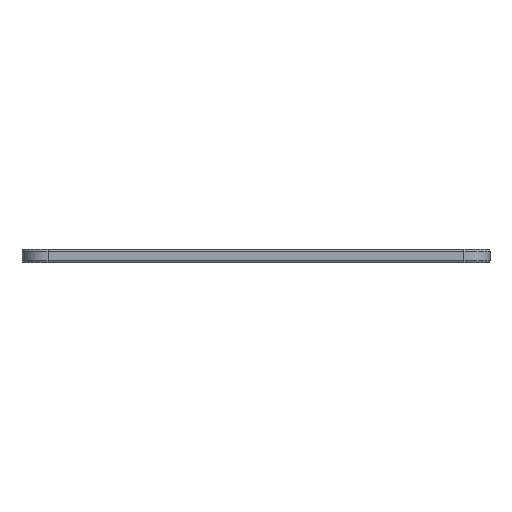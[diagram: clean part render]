
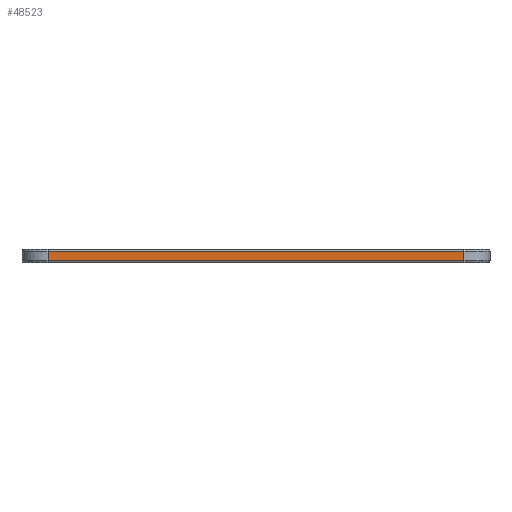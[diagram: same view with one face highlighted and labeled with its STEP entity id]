
A CAD part, front view. The second image highlights one B-rep face of the part: STEP entity #48523.
In plain terms, the highlighted planar face has unit normal (0, -1, 0).
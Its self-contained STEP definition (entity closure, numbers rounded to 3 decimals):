
#1090 = VERTEX_POINT ( 'NONE', #38330 ) ;
#4782 = CARTESIAN_POINT ( 'NONE',  ( -23.99, -42.8, 0.55 ) ) ;
#4953 = ORIENTED_EDGE ( 'NONE', *, *, #39635, .T. ) ;
#5704 = VERTEX_POINT ( 'NONE', #8839 ) ;
#6017 = ORIENTED_EDGE ( 'NONE', *, *, #35766, .T. ) ;
#6618 = VECTOR ( 'NONE', #30327, 1000. ) ;
#6809 = DIRECTION ( 'NONE',  ( 0., 0., -1. ) ) ;
#7109 = CARTESIAN_POINT ( 'NONE',  ( 23.99, -42.8, 0.75 ) ) ;
#7135 = CARTESIAN_POINT ( 'NONE',  ( -23.99, -42.8, 0.75 ) ) ;
#8451 = EDGE_CURVE ( 'NONE', #33631, #5704, #20786, .T. ) ;
#8839 = CARTESIAN_POINT ( 'NONE',  ( -23.99, -42.8, -0.55 ) ) ;
#10228 = LINE ( 'NONE', #49596, #48304 ) ;
#10429 = CARTESIAN_POINT ( 'NONE',  ( 23.99, -42.8, -0.55 ) ) ;
#15319 = VERTEX_POINT ( 'NONE', #10429 ) ;
#16925 = LINE ( 'NONE', #7109, #6618 ) ;
#17462 = EDGE_CURVE ( 'NONE', #5704, #15319, #10228, .T. ) ;
#17876 = CARTESIAN_POINT ( 'NONE',  ( -23.99, -42.8, 0.55 ) ) ;
#20262 = VECTOR ( 'NONE', #33242, 1000. ) ;
#20786 = LINE ( 'NONE', #7135, #43127 ) ;
#23269 = LINE ( 'NONE', #17876, #20262 ) ;
#30327 = DIRECTION ( 'NONE',  ( 0., 0., 1. ) ) ;
#30451 = PLANE ( 'NONE',  #43306 ) ;
#30724 = FACE_OUTER_BOUND ( 'NONE', #40714, .T. ) ;
#33242 = DIRECTION ( 'NONE',  ( -1., 0., 0. ) ) ;
#33631 = VERTEX_POINT ( 'NONE', #4782 ) ;
#33820 = DIRECTION ( 'NONE',  ( 0., 1., 0. ) ) ;
#34309 = DIRECTION ( 'NONE',  ( -1., 0., 0. ) ) ;
#35766 = EDGE_CURVE ( 'NONE', #15319, #1090, #16925, .T. ) ;
#35986 = ORIENTED_EDGE ( 'NONE', *, *, #8451, .T. ) ;
#38002 = CARTESIAN_POINT ( 'NONE',  ( -26.99, -42.8, 0.75 ) ) ;
#38330 = CARTESIAN_POINT ( 'NONE',  ( 23.99, -42.8, 0.55 ) ) ;
#38414 = ORIENTED_EDGE ( 'NONE', *, *, #17462, .T. ) ;
#39635 = EDGE_CURVE ( 'NONE', #1090, #33631, #23269, .T. ) ;
#40714 = EDGE_LOOP ( 'NONE', ( #35986, #38414, #6017, #4953 ) ) ;
#42027 = DIRECTION ( 'NONE',  ( 1., 0., 0. ) ) ;
#43127 = VECTOR ( 'NONE', #6809, 1000. ) ;
#43306 = AXIS2_PLACEMENT_3D ( 'NONE', #38002, #33820, #34309 ) ;
#48304 = VECTOR ( 'NONE', #42027, 1000. ) ;
#48523 = ADVANCED_FACE ( 'NONE', ( #30724 ), #30451, .F. ) ;
#49596 = CARTESIAN_POINT ( 'NONE',  ( -26.99, -42.8, -0.55 ) ) ;
